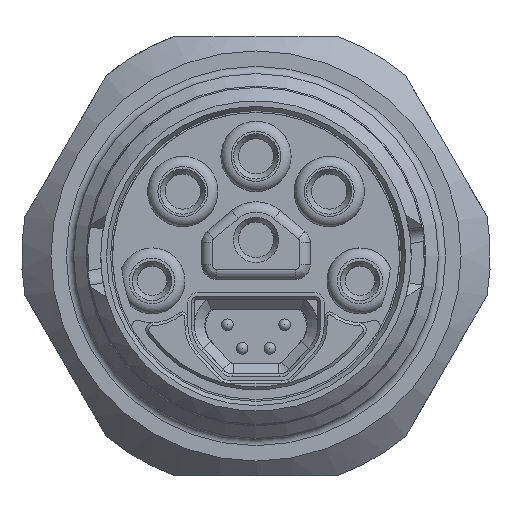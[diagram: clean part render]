
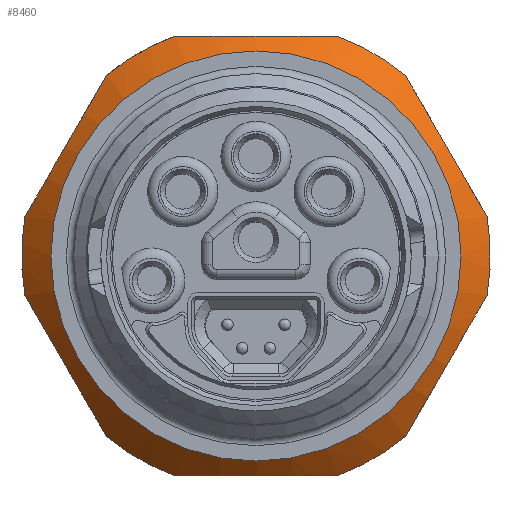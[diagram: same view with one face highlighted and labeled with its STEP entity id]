
A CAD part, front view. The second image highlights one B-rep face of the part: STEP entity #8460.
In plain terms, the highlighted conical face has half-angle 45 degrees and reference radius 15 mm.
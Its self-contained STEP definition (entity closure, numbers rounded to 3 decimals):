
#364=(
BOUNDED_CURVE()
B_SPLINE_CURVE(2,(#13081,#13082,#13083),.UNSPECIFIED.,.F.,.F.)
B_SPLINE_CURVE_WITH_KNOTS((3,3),(0.566,1.131),
 .UNSPECIFIED.)
CURVE()
GEOMETRIC_REPRESENTATION_ITEM()
RATIONAL_B_SPLINE_CURVE((1.033,1.033,1.))
REPRESENTATION_ITEM('')
);
#365=(
BOUNDED_CURVE()
B_SPLINE_CURVE(2,(#13084,#13085,#13086),.UNSPECIFIED.,.F.,.F.)
B_SPLINE_CURVE_WITH_KNOTS((3,3),(0.,0.566),.UNSPECIFIED.)
CURVE()
GEOMETRIC_REPRESENTATION_ITEM()
RATIONAL_B_SPLINE_CURVE((1.,1.033,1.033))
REPRESENTATION_ITEM('')
);
#369=(
BOUNDED_CURVE()
B_SPLINE_CURVE(2,(#13109,#13110,#13111),.UNSPECIFIED.,.F.,.F.)
B_SPLINE_CURVE_WITH_KNOTS((3,3),(0.,1.131),.UNSPECIFIED.)
CURVE()
GEOMETRIC_REPRESENTATION_ITEM()
RATIONAL_B_SPLINE_CURVE((1.,1.067,1.))
REPRESENTATION_ITEM('')
);
#373=(
BOUNDED_CURVE()
B_SPLINE_CURVE(2,(#13128,#13129,#13130),.UNSPECIFIED.,.F.,.F.)
B_SPLINE_CURVE_WITH_KNOTS((3,3),(0.,1.131),.UNSPECIFIED.)
CURVE()
GEOMETRIC_REPRESENTATION_ITEM()
RATIONAL_B_SPLINE_CURVE((1.,1.067,1.))
REPRESENTATION_ITEM('')
);
#378=(
BOUNDED_CURVE()
B_SPLINE_CURVE(2,(#13167,#13168,#13169),.UNSPECIFIED.,.F.,.F.)
B_SPLINE_CURVE_WITH_KNOTS((3,3),(0.,1.131),.UNSPECIFIED.)
CURVE()
GEOMETRIC_REPRESENTATION_ITEM()
RATIONAL_B_SPLINE_CURVE((1.,1.067,1.))
REPRESENTATION_ITEM('')
);
#379=(
BOUNDED_CURVE()
B_SPLINE_CURVE(2,(#13171,#13172,#13173),.UNSPECIFIED.,.F.,.F.)
B_SPLINE_CURVE_WITH_KNOTS((3,3),(0.,1.131),.UNSPECIFIED.)
CURVE()
GEOMETRIC_REPRESENTATION_ITEM()
RATIONAL_B_SPLINE_CURVE((1.,1.067,1.))
REPRESENTATION_ITEM('')
);
#380=(
BOUNDED_CURVE()
B_SPLINE_CURVE(2,(#13267,#13268,#13269),.UNSPECIFIED.,.F.,.F.)
B_SPLINE_CURVE_WITH_KNOTS((3,3),(0.,1.131),.UNSPECIFIED.)
CURVE()
GEOMETRIC_REPRESENTATION_ITEM()
RATIONAL_B_SPLINE_CURVE((1.,1.067,1.))
REPRESENTATION_ITEM('')
);
#480=CONICAL_SURFACE('',#9240,15.,0.785);
#1012=FACE_OUTER_BOUND('',#1489,.T.);
#1489=EDGE_LOOP('',(#6761,#6762,#6763,#6764,#6765,#6766,#6767,#6768,#6769,
#6770,#6771,#6772,#6773,#6774,#6775,#6776));
#1856=CIRCLE('',#9083,16.);
#1857=CIRCLE('',#9085,16.);
#1858=CIRCLE('',#9088,16.);
#1865=CIRCLE('',#9104,16.);
#1866=CIRCLE('',#9106,16.);
#1867=CIRCLE('',#9108,16.);
#1926=CIRCLE('',#9236,14.);
#2426=LINE('',#23854,#2886);
#2886=VECTOR('',#11136,15.);
#3350=VERTEX_POINT('',#13061);
#3351=VERTEX_POINT('',#13063);
#3352=VERTEX_POINT('',#13067);
#3353=VERTEX_POINT('',#13069);
#3355=VERTEX_POINT('',#13080);
#3356=VERTEX_POINT('',#13088);
#3357=VERTEX_POINT('',#13090);
#3360=VERTEX_POINT('',#13107);
#3363=VERTEX_POINT('',#13126);
#3365=VERTEX_POINT('',#13153);
#3366=VERTEX_POINT('',#13157);
#3367=VERTEX_POINT('',#13161);
#3368=VERTEX_POINT('',#13163);
#3600=VERTEX_POINT('',#23845);
#4362=EDGE_CURVE('',#3351,#3350,#1856,.T.);
#4365=EDGE_CURVE('',#3353,#3352,#1857,.T.);
#4369=EDGE_CURVE('',#3355,#3353,#364,.T.);
#4370=EDGE_CURVE('',#3350,#3355,#365,.T.);
#4372=EDGE_CURVE('',#3357,#3356,#1858,.T.);
#4379=EDGE_CURVE('',#3352,#3360,#369,.T.);
#4385=EDGE_CURVE('',#3356,#3363,#373,.T.);
#4395=EDGE_CURVE('',#3360,#3365,#1865,.T.);
#4397=EDGE_CURVE('',#3363,#3366,#1866,.T.);
#4399=EDGE_CURVE('',#3368,#3367,#1867,.T.);
#4401=EDGE_CURVE('',#3365,#3368,#378,.T.);
#4402=EDGE_CURVE('',#3367,#3357,#379,.T.);
#4449=EDGE_CURVE('',#3366,#3351,#380,.T.);
#4733=EDGE_CURVE('',#3600,#3600,#1926,.T.);
#4737=EDGE_CURVE('',#3355,#3600,#2426,.T.);
#6761=ORIENTED_EDGE('',*,*,#4449,.T.);
#6762=ORIENTED_EDGE('',*,*,#4362,.T.);
#6763=ORIENTED_EDGE('',*,*,#4370,.T.);
#6764=ORIENTED_EDGE('',*,*,#4737,.T.);
#6765=ORIENTED_EDGE('',*,*,#4733,.T.);
#6766=ORIENTED_EDGE('',*,*,#4737,.F.);
#6767=ORIENTED_EDGE('',*,*,#4369,.T.);
#6768=ORIENTED_EDGE('',*,*,#4365,.T.);
#6769=ORIENTED_EDGE('',*,*,#4379,.T.);
#6770=ORIENTED_EDGE('',*,*,#4395,.T.);
#6771=ORIENTED_EDGE('',*,*,#4401,.T.);
#6772=ORIENTED_EDGE('',*,*,#4399,.T.);
#6773=ORIENTED_EDGE('',*,*,#4402,.T.);
#6774=ORIENTED_EDGE('',*,*,#4372,.T.);
#6775=ORIENTED_EDGE('',*,*,#4385,.T.);
#6776=ORIENTED_EDGE('',*,*,#4397,.T.);
#8460=ADVANCED_FACE('',(#1012),#480,.T.);
#9083=AXIS2_PLACEMENT_3D('',#13064,#10750,#10751);
#9085=AXIS2_PLACEMENT_3D('',#13070,#10756,#10757);
#9088=AXIS2_PLACEMENT_3D('',#13091,#10764,#10765);
#9104=AXIS2_PLACEMENT_3D('',#13155,#10800,#10801);
#9106=AXIS2_PLACEMENT_3D('',#13159,#10805,#10806);
#9108=AXIS2_PLACEMENT_3D('',#13164,#10810,#10811);
#9236=AXIS2_PLACEMENT_3D('',#23846,#11125,#11126);
#9240=AXIS2_PLACEMENT_3D('',#23853,#11134,#11135);
#10750=DIRECTION('center_axis',(0.,-1.,0.));
#10751=DIRECTION('ref_axis',(0.,0.,
-1.));
#10756=DIRECTION('center_axis',(0.,-1.,0.));
#10757=DIRECTION('ref_axis',(0.,0.,
-1.));
#10764=DIRECTION('center_axis',(0.,-1.,0.));
#10765=DIRECTION('ref_axis',(0.,0.,
-1.));
#10800=DIRECTION('center_axis',(0.,-1.,0.));
#10801=DIRECTION('ref_axis',(0.,0.,
-1.));
#10805=DIRECTION('center_axis',(0.,-1.,0.));
#10806=DIRECTION('ref_axis',(0.,0.,
-1.));
#10810=DIRECTION('center_axis',(0.,-1.,0.));
#10811=DIRECTION('ref_axis',(0.,0.,
-1.));
#11125=DIRECTION('center_axis',(0.,1.,0.));
#11126=DIRECTION('ref_axis',(0.,0.,
-1.));
#11134=DIRECTION('center_axis',(0.,1.,0.));
#11135=DIRECTION('ref_axis',(0.,0.,
-1.));
#11136=DIRECTION('',(0.,-0.707,-0.707));
#13061=CARTESIAN_POINT('',(-150.854,-297.173,-144.918));
#13063=CARTESIAN_POINT('',(-146.215,-297.173,-147.596));
#13064=CARTESIAN_POINT('Origin',(-156.422,-297.173,-159.918));
#13067=CARTESIAN_POINT('',(-166.628,-297.173,-147.596));
#13069=CARTESIAN_POINT('',(-161.99,-297.173,-144.918));
#13070=CARTESIAN_POINT('Origin',(-156.422,-297.173,-159.918));
#13080=CARTESIAN_POINT('',(-156.422,-298.173,-144.918));
#13081=CARTESIAN_POINT('Ctrl Pts',(-156.422,-298.173,
-144.918));
#13082=CARTESIAN_POINT('Ctrl Pts',(-159.116,-298.173,
-144.918));
#13083=CARTESIAN_POINT('Ctrl Pts',(-161.99,-297.173,
-144.918));
#13084=CARTESIAN_POINT('Ctrl Pts',(-150.854,-297.173,
-144.918));
#13085=CARTESIAN_POINT('Ctrl Pts',(-153.728,-298.173,
-144.918));
#13086=CARTESIAN_POINT('Ctrl Pts',(-156.422,-298.173,
-144.918));
#13088=CARTESIAN_POINT('',(-146.215,-297.173,-172.239));
#13090=CARTESIAN_POINT('',(-150.854,-297.173,-174.918));
#13091=CARTESIAN_POINT('Origin',(-156.422,-297.173,-159.918));
#13107=CARTESIAN_POINT('',(-172.196,-297.173,-157.239));
#13109=CARTESIAN_POINT('Ctrl Pts',(-166.628,-297.173,
-147.596));
#13110=CARTESIAN_POINT('Ctrl Pts',(-169.412,-299.111,-152.418));
#13111=CARTESIAN_POINT('Ctrl Pts',(-172.196,-297.173,
-157.239));
#13126=CARTESIAN_POINT('',(-140.648,-297.173,-162.596));
#13128=CARTESIAN_POINT('Ctrl Pts',(-146.215,-297.173,
-172.239));
#13129=CARTESIAN_POINT('Ctrl Pts',(-143.432,-299.111,
-167.418));
#13130=CARTESIAN_POINT('Ctrl Pts',(-140.648,-297.173,
-162.596));
#13153=CARTESIAN_POINT('',(-172.196,-297.173,-162.596));
#13155=CARTESIAN_POINT('Origin',(-156.422,-297.173,-159.918));
#13157=CARTESIAN_POINT('',(-140.648,-297.173,-157.239));
#13159=CARTESIAN_POINT('Origin',(-156.422,-297.173,-159.918));
#13161=CARTESIAN_POINT('',(-161.99,-297.173,-174.918));
#13163=CARTESIAN_POINT('',(-166.628,-297.173,-172.239));
#13164=CARTESIAN_POINT('Origin',(-156.422,-297.173,-159.918));
#13167=CARTESIAN_POINT('Ctrl Pts',(-172.196,-297.173,
-162.596));
#13168=CARTESIAN_POINT('Ctrl Pts',(-169.412,-299.111,-167.418));
#13169=CARTESIAN_POINT('Ctrl Pts',(-166.628,-297.173,
-172.239));
#13171=CARTESIAN_POINT('Ctrl Pts',(-161.99,-297.173,
-174.918));
#13172=CARTESIAN_POINT('Ctrl Pts',(-156.422,-299.111,
-174.918));
#13173=CARTESIAN_POINT('Ctrl Pts',(-150.854,-297.173,
-174.918));
#13267=CARTESIAN_POINT('Ctrl Pts',(-140.648,-297.173,
-157.239));
#13268=CARTESIAN_POINT('Ctrl Pts',(-143.432,-299.111,
-152.418));
#13269=CARTESIAN_POINT('Ctrl Pts',(-146.215,-297.173,
-147.596));
#23845=CARTESIAN_POINT('',(-156.422,-299.173,-145.918));
#23846=CARTESIAN_POINT('Origin',(-156.422,-299.173,-159.918));
#23853=CARTESIAN_POINT('Origin',(-156.422,-298.173,-159.918));
#23854=CARTESIAN_POINT('',(-156.422,-298.173,-144.918));
